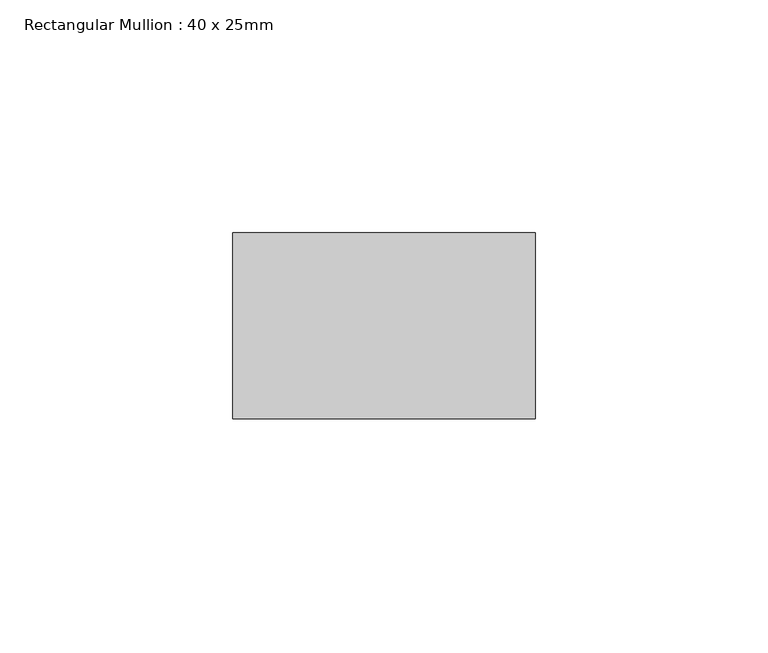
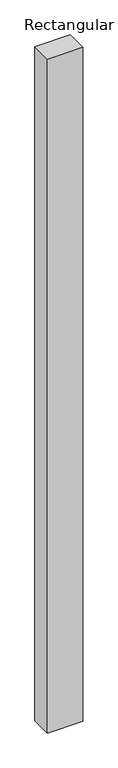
"""IFC4 building model written with IfcOpenShell, lengths in millimetres: member geometry, Rectangular Mullion : 40 x 25mm."""

from ifc_helpers import new_model, si_unit, frame, origin, place, context, project, spatial, polyline, outline, extrude, source, transform, mapped, element, save


def rectangular_mullion_40_x_25mm_8ca6adbb(model_context):
    return source(origin(), model_context, "Body", "SweptSolid", [
        extrude(outline(polyline([(0.0, -20.0), (0.0, -60.0), (-65.0, -60.0), (-65.0, -20.0), (0.0, -20.0)])), frame((0.0, 0.0, -1310.0), z_axis=(0.0, 0.0, 1.0), x_axis=(1.0, 0.0, 0.0)), (0.0, 0.0, 1.0), 1310.0),
    ])


if __name__ == "__main__":
    model = new_model("IFC4")
    model_context = context("Model", 3, world=origin())
    ifc_project = project(units=[si_unit("LENGTHUNIT", "METRE", prefix="MILLI")], contexts=[model_context])
    site = spatial("IfcSite", under=ifc_project)
    building = spatial("IfcBuilding", under=site)
    placement = place(None, origin())
    rectangular_mullion_40_x_25mm_shape = rectangular_mullion_40_x_25mm_8ca6adbb(model_context)
    element("IfcMember", 1, ObjectType="Rectangular Mullion : 40 x 25mm", at=placement, inside=building, context=model_context, shape_type="MappedRepresentation", body=[
        mapped(rectangular_mullion_40_x_25mm_shape, transform((0.0, 0.0, 0.0), x_axis=(1.0, 0.0, 0.0), y_axis=(0.0, 1.0, 0.0), z_axis=(0.0, 0.0, 1.0))),
    ])
    save(model, "model.ifc")
